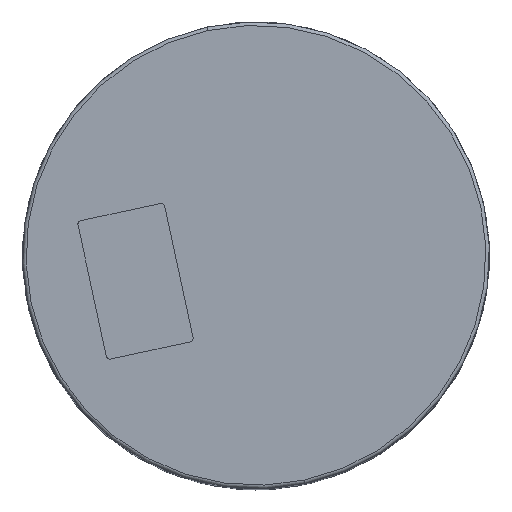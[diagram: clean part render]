
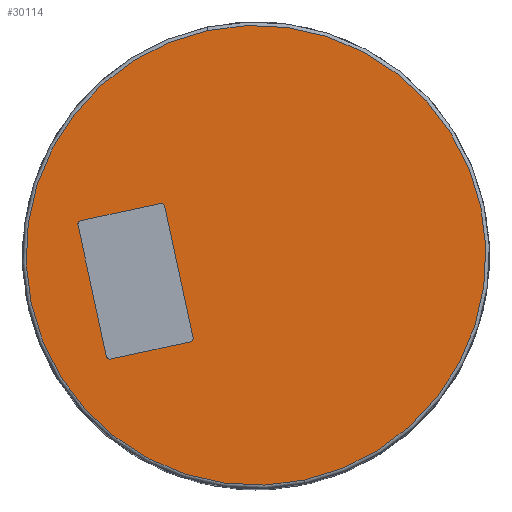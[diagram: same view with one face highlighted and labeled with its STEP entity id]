
A CAD part, top view. The second image highlights one B-rep face of the part: STEP entity #30114.
In plain terms, the highlighted planar face has unit normal (0, 0, 1).
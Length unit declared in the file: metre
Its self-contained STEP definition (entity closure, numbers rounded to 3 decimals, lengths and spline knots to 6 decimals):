
#1006 = ORIENTED_EDGE ( 'NONE', *, *, #8713, .F. ) ;
#5146 = CARTESIAN_POINT ( 'NONE',  ( 0., 0., 0.127 ) ) ;
#5233 = DIRECTION ( 'NONE',  ( -0.211, 0.978, 0. ) ) ;
#5797 = CARTESIAN_POINT ( 'NONE',  ( -0.062963, 0.01125, 0.127 ) ) ;
#7355 = EDGE_CURVE ( 'NONE', #85371, #58360, #114243, .T. ) ;
#7681 = DIRECTION ( 'NONE',  ( 0., 0., 1. ) ) ;
#8713 = EDGE_CURVE ( 'NONE', #89888, #50282, #44821, .T. ) ;
#9210 = CARTESIAN_POINT ( 'NONE',  ( -0.022702, -0.029704, 0.127 ) ) ;
#10544 = VECTOR ( 'NONE', #130727, 1. ) ;
#11041 = ORIENTED_EDGE ( 'NONE', *, *, #55326, .F. ) ;
#14696 = EDGE_CURVE ( 'NONE', #109862, #76565, #134198, .T. ) ;
#17863 = CARTESIAN_POINT ( 'NONE',  ( -0.052479, -0.037417, 0.127 ) ) ;
#20796 = CARTESIAN_POINT ( 'NONE',  ( -0.052479, -0.037417, 0.127 ) ) ;
#25353 = VERTEX_POINT ( 'NONE', #20796 ) ;
#26206 = DIRECTION ( 'NONE',  ( -0.211, 0.978, 0. ) ) ;
#30114 = ADVANCED_FACE ( 'NONE', ( #121845, #76836 ), #77539, .T. ) ;
#30871 = DIRECTION ( 'NONE',  ( -0.211, 0.978, 0. ) ) ;
#35379 = CARTESIAN_POINT ( 'NONE',  ( -0.022702, -0.029704, 0.127 ) ) ;
#38521 = DIRECTION ( 'NONE',  ( -0.211, 0.978, 0. ) ) ;
#41112 = DIRECTION ( 'NONE',  ( 0., 0., 1. ) ) ;
#44821 = CIRCLE ( 'NONE', #121229, 0.00127 ) ;
#46091 = ORIENTED_EDGE ( 'NONE', *, *, #76745, .T. ) ;
#47699 = CIRCLE ( 'NONE', #132855, 0.082931 ) ;
#48752 = CARTESIAN_POINT ( 'NONE',  ( -0.052747, -0.036176, 0.127 ) ) ;
#50282 = VERTEX_POINT ( 'NONE', #9210 ) ;
#51863 = CARTESIAN_POINT ( 'NONE',  ( -0.023676, -0.031213, 0.127 ) ) ;
#53304 = ORIENTED_EDGE ( 'NONE', *, *, #95340, .F. ) ;
#55326 = EDGE_CURVE ( 'NONE', #103528, #63785, #74485, .T. ) ;
#55495 = AXIS2_PLACEMENT_3D ( 'NONE', #82764, #41112, #30871 ) ;
#57923 = EDGE_CURVE ( 'NONE', #63785, #25353, #79019, .T. ) ;
#58360 = VERTEX_POINT ( 'NONE', #93669 ) ;
#58879 = LINE ( 'NONE', #100586, #117817 ) ;
#60374 = ORIENTED_EDGE ( 'NONE', *, *, #73707, .F. ) ;
#63617 = ORIENTED_EDGE ( 'NONE', *, *, #110315, .F. ) ;
#63785 = VERTEX_POINT ( 'NONE', #134657 ) ;
#64212 = AXIS2_PLACEMENT_3D ( 'NONE', #5797, #118645, #76808 ) ;
#67730 = CARTESIAN_POINT ( 'NONE',  ( -0.064205, 0.010983, 0.127 ) ) ;
#70775 = DIRECTION ( 'NONE',  ( 0., 0., 1. ) ) ;
#72444 = ORIENTED_EDGE ( 'NONE', *, *, #14696, .T. ) ;
#72895 = CIRCLE ( 'NONE', #64212, 0.00127 ) ;
#73707 = EDGE_CURVE ( 'NONE', #108667, #103528, #72895, .T. ) ;
#73846 = CARTESIAN_POINT ( 'NONE',  ( -0.032918, 0.017722, 0.127 ) ) ;
#74485 = LINE ( 'NONE', #124532, #96098 ) ;
#74573 = CARTESIAN_POINT ( 'NONE',  ( 0., 0., 0.127 ) ) ;
#76210 = DIRECTION ( 'NONE',  ( 0., 0., 1. ) ) ;
#76565 = VERTEX_POINT ( 'NONE', #90707 ) ;
#76745 = EDGE_CURVE ( 'NONE', #76565, #109862, #47699, .T. ) ;
#76808 = DIRECTION ( 'NONE',  ( 0.211, -0.978, 0. ) ) ;
#76836 = FACE_OUTER_BOUND ( 'NONE', #105518, .T. ) ;
#77539 = PLANE ( 'NONE',  #79803 ) ;
#78059 = CARTESIAN_POINT ( 'NONE',  ( -0.023944, -0.029971, 0.127 ) ) ;
#78739 = DIRECTION ( 'NONE',  ( 0., 0., 1. ) ) ;
#79019 = CIRCLE ( 'NONE', #94432, 0.00127 ) ;
#79058 = ORIENTED_EDGE ( 'NONE', *, *, #124419, .F. ) ;
#79803 = AXIS2_PLACEMENT_3D ( 'NONE', #5146, #7681, #101320 ) ;
#81523 = CARTESIAN_POINT ( 'NONE',  ( -0.017464, 0.081071, 0.127 ) ) ;
#82764 = CARTESIAN_POINT ( 'NONE',  ( 0., 0., 0.127 ) ) ;
#82775 = DIRECTION ( 'NONE',  ( 0.211, -0.978, 0. ) ) ;
#85371 = VERTEX_POINT ( 'NONE', #73846 ) ;
#89888 = VERTEX_POINT ( 'NONE', #51863 ) ;
#90707 = CARTESIAN_POINT ( 'NONE',  ( 0.017464, -0.081071, 0.127 ) ) ;
#93669 = CARTESIAN_POINT ( 'NONE',  ( -0.034427, 0.018697, 0.127 ) ) ;
#94432 = AXIS2_PLACEMENT_3D ( 'NONE', #48752, #76210, #38521 ) ;
#95340 = EDGE_CURVE ( 'NONE', #25353, #89888, #123144, .T. ) ;
#96098 = VECTOR ( 'NONE', #82775, 1. ) ;
#96436 = VECTOR ( 'NONE', #5233, 1. ) ;
#99218 = DIRECTION ( 'NONE',  ( -0.978, -0.211, 0. ) ) ;
#100586 = CARTESIAN_POINT ( 'NONE',  ( -0.06323, 0.012492, 0.127 ) ) ;
#101320 = DIRECTION ( 'NONE',  ( -0.211, 0.978, 0. ) ) ;
#103528 = VERTEX_POINT ( 'NONE', #67730 ) ;
#105518 = EDGE_LOOP ( 'NONE', ( #72444, #46091 ) ) ;
#108667 = VERTEX_POINT ( 'NONE', #121657 ) ;
#109862 = VERTEX_POINT ( 'NONE', #81523 ) ;
#110315 = EDGE_CURVE ( 'NONE', #50282, #85371, #119436, .T. ) ;
#111160 = DIRECTION ( 'NONE',  ( -0.211, 0.978, 0. ) ) ;
#114243 = CIRCLE ( 'NONE', #129566, 0.00127 ) ;
#117453 = EDGE_LOOP ( 'NONE', ( #123913, #11041, #60374, #79058, #123284, #63617, #1006, #53304 ) ) ;
#117817 = VECTOR ( 'NONE', #99218, 1. ) ;
#118645 = DIRECTION ( 'NONE',  ( 0., 0., 1. ) ) ;
#119436 = LINE ( 'NONE', #35379, #96436 ) ;
#121229 = AXIS2_PLACEMENT_3D ( 'NONE', #78059, #78739, #26206 ) ;
#121428 = CARTESIAN_POINT ( 'NONE',  ( -0.03416, 0.017455, 0.127 ) ) ;
#121657 = CARTESIAN_POINT ( 'NONE',  ( -0.06323, 0.012492, 0.127 ) ) ;
#121845 = FACE_BOUND ( 'NONE', #117453, .T. ) ;
#123144 = LINE ( 'NONE', #17863, #10544 ) ;
#123284 = ORIENTED_EDGE ( 'NONE', *, *, #7355, .F. ) ;
#123913 = ORIENTED_EDGE ( 'NONE', *, *, #57923, .F. ) ;
#124419 = EDGE_CURVE ( 'NONE', #58360, #108667, #58879, .T. ) ;
#124532 = CARTESIAN_POINT ( 'NONE',  ( -0.053988, -0.036443, 0.127 ) ) ;
#124800 = DIRECTION ( 'NONE',  ( 0., 0., 1. ) ) ;
#129566 = AXIS2_PLACEMENT_3D ( 'NONE', #121428, #70775, #111160 ) ;
#130727 = DIRECTION ( 'NONE',  ( 0.978, 0.211, 0. ) ) ;
#132855 = AXIS2_PLACEMENT_3D ( 'NONE', #74573, #124800, #133063 ) ;
#133063 = DIRECTION ( 'NONE',  ( -0.211, 0.978, 0. ) ) ;
#134198 = CIRCLE ( 'NONE', #55495, 0.082931 ) ;
#134657 = CARTESIAN_POINT ( 'NONE',  ( -0.053988, -0.036443, 0.127 ) ) ;
